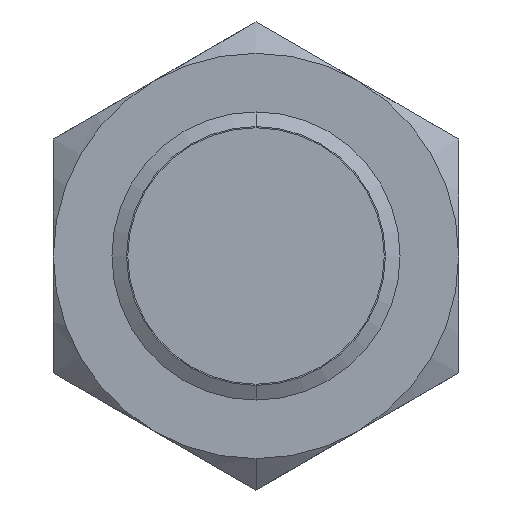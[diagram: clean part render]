
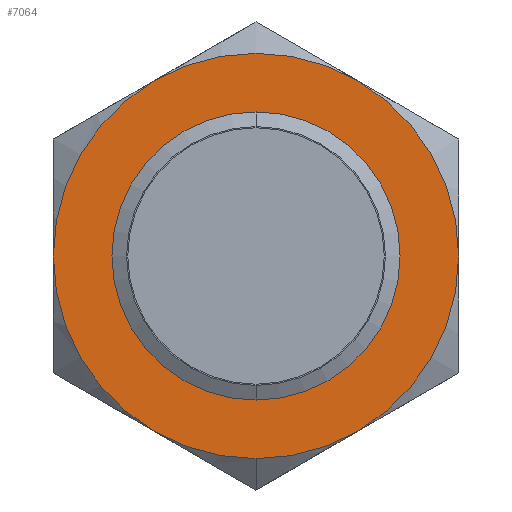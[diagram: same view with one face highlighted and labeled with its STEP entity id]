
A CAD part, left-side view. The second image highlights one B-rep face of the part: STEP entity #7064.
In plain terms, the highlighted planar face has unit normal (-1, 0, 0).
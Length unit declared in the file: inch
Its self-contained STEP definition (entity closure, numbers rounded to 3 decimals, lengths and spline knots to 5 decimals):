
#10 = DIRECTION ( 'NONE',  ( 0., 0., -1. ) ) ;
#1037 = EDGE_CURVE ( 'NONE', #7484, #9191, #9393, .T. ) ;
#1816 = FACE_BOUND ( 'NONE', #6908, .T. ) ;
#1817 = FACE_OUTER_BOUND ( 'NONE', #5549, .T. ) ;
#1818 = PLANE ( 'NONE',  #1819 ) ;
#1819 = AXIS2_PLACEMENT_3D ( 'NONE', #1820, #1821, #1822 ) ;
#1820 = CARTESIAN_POINT ( 'NONE',  ( 0.6075, 0., 0. ) ) ;
#1821 = DIRECTION ( 'NONE',  ( -1., 0., 0. ) ) ;
#1822 = DIRECTION ( 'NONE',  ( 0., 0., 1. ) ) ;
#2636 = CARTESIAN_POINT ( 'NONE',  ( 0.6075, 0., 0.236 ) ) ;
#2835 = CIRCLE ( 'NONE', #2836, 0.236 ) ;
#2836 = AXIS2_PLACEMENT_3D ( 'NONE', #2837, #2838, #2839 ) ;
#2837 = CARTESIAN_POINT ( 'NONE',  ( 0.6075, 0., 0. ) ) ;
#2838 = DIRECTION ( 'NONE',  ( 1., 0., 0. ) ) ;
#2839 = DIRECTION ( 'NONE',  ( 0., 0., 1. ) ) ;
#2945 = CIRCLE ( 'NONE', #2946, 0.332 ) ;
#2946 = AXIS2_PLACEMENT_3D ( 'NONE', #2947, #2948, #2949 ) ;
#2947 = CARTESIAN_POINT ( 'NONE',  ( 0.6075, 0., 0. ) ) ;
#2948 = DIRECTION ( 'NONE',  ( -1., 0., 0. ) ) ;
#2949 = DIRECTION ( 'NONE',  ( 0., 0., -1. ) ) ;
#3591 = CARTESIAN_POINT ( 'NONE',  ( 0.6075, 0., -0.236 ) ) ;
#3616 = CARTESIAN_POINT ( 'NONE',  ( 0.6075, 0.166, -0.28752 ) ) ;
#3657 = EDGE_CURVE ( 'NONE', #4394, #8162, #10512, .T. ) ;
#3841 = ORIENTED_EDGE ( 'NONE', *, *, #3657, .T. ) ;
#3984 = CIRCLE ( 'NONE', #3985, 0.332 ) ;
#3985 = AXIS2_PLACEMENT_3D ( 'NONE', #3986, #3987, #3988 ) ;
#3986 = CARTESIAN_POINT ( 'NONE',  ( 0.6075, 0., 0. ) ) ;
#3987 = DIRECTION ( 'NONE',  ( -1., 0., 0. ) ) ;
#3988 = DIRECTION ( 'NONE',  ( 0., 0., -1. ) ) ;
#4320 = CARTESIAN_POINT ( 'NONE',  ( 0.6075, 0.332, 0. ) ) ;
#4394 = VERTEX_POINT ( 'NONE', #10968 ) ;
#4410 = CIRCLE ( 'NONE', #4413, 0.332 ) ;
#4413 = AXIS2_PLACEMENT_3D ( 'NONE', #4414, #4415, #4416 ) ;
#4414 = CARTESIAN_POINT ( 'NONE',  ( 0.6075, 0., 0. ) ) ;
#4415 = DIRECTION ( 'NONE',  ( -1., 0., 0. ) ) ;
#4416 = DIRECTION ( 'NONE',  ( 0., 0., -1. ) ) ;
#4629 = EDGE_CURVE ( 'NONE', #8330, #4394, #11108, .T. ) ;
#4901 = CARTESIAN_POINT ( 'NONE',  ( 0.6075, 0.166, 0.28752 ) ) ;
#4928 = CIRCLE ( 'NONE', #4929, 0.332 ) ;
#4929 = AXIS2_PLACEMENT_3D ( 'NONE', #4930, #4931, #4932 ) ;
#4930 = CARTESIAN_POINT ( 'NONE',  ( 0.6075, 0., 0. ) ) ;
#4931 = DIRECTION ( 'NONE',  ( -1., 0., 0. ) ) ;
#4932 = DIRECTION ( 'NONE',  ( 0., 0., -1. ) ) ;
#5011 = ORIENTED_EDGE ( 'NONE', *, *, #4629, .T. ) ;
#5388 = CARTESIAN_POINT ( 'NONE',  ( 0.6075, -0.166, 0.28752 ) ) ;
#5549 = EDGE_LOOP ( 'NONE', ( #5011, #3841, #8039, #7841, #7610, #7399, #9099 ) ) ;
#5801 = ORIENTED_EDGE ( 'NONE', *, *, #1037, .T. ) ;
#6367 = ORIENTED_EDGE ( 'NONE', *, *, #9447, .T. ) ;
#6908 = EDGE_LOOP ( 'NONE', ( #6367, #5801 ) ) ;
#7064 = ADVANCED_FACE ( 'NONE', ( #1816, #1817 ), #1818, .T. ) ;
#7399 = ORIENTED_EDGE ( 'NONE', *, *, #9638, .T. ) ;
#7484 = VERTEX_POINT ( 'NONE', #3591 ) ;
#7490 = VERTEX_POINT ( 'NONE', #3616 ) ;
#7536 = EDGE_CURVE ( 'NONE', #7724, #7490, #3984, .T. ) ;
#7610 = ORIENTED_EDGE ( 'NONE', *, *, #7536, .T. ) ;
#7724 = VERTEX_POINT ( 'NONE', #4320 ) ;
#7760 = EDGE_CURVE ( 'NONE', #7943, #7724, #4410, .T. ) ;
#7841 = ORIENTED_EDGE ( 'NONE', *, *, #7760, .T. ) ;
#7943 = VERTEX_POINT ( 'NONE', #4901 ) ;
#7989 = EDGE_CURVE ( 'NONE', #8162, #7943, #4928, .T. ) ;
#8039 = ORIENTED_EDGE ( 'NONE', *, *, #7989, .T. ) ;
#8162 = VERTEX_POINT ( 'NONE', #5388 ) ;
#8330 = VERTEX_POINT ( 'NONE', #10665 ) ;
#8381 = VERTEX_POINT ( 'NONE', #10905 ) ;
#8414 = EDGE_CURVE ( 'NONE', #8381, #8330, #11062, .T. ) ;
#9099 = ORIENTED_EDGE ( 'NONE', *, *, #8414, .T. ) ;
#9191 = VERTEX_POINT ( 'NONE', #2636 ) ;
#9393 = CIRCLE ( 'NONE', #9394, 0.236 ) ;
#9394 = AXIS2_PLACEMENT_3D ( 'NONE', #9395, #9398, #9399 ) ;
#9395 = CARTESIAN_POINT ( 'NONE',  ( 0.6075, 0., 0. ) ) ;
#9398 = DIRECTION ( 'NONE',  ( 1., 0., 0. ) ) ;
#9399 = DIRECTION ( 'NONE',  ( 0., 0., 1. ) ) ;
#9447 = EDGE_CURVE ( 'NONE', #9191, #7484, #2835, .T. ) ;
#9638 = EDGE_CURVE ( 'NONE', #7490, #8381, #2945, .T. ) ;
#10512 = CIRCLE ( 'NONE', #10513, 0.332 ) ;
#10513 = AXIS2_PLACEMENT_3D ( 'NONE', #10514, #10515, #10516 ) ;
#10514 = CARTESIAN_POINT ( 'NONE',  ( 0.6075, 0., 0. ) ) ;
#10515 = DIRECTION ( 'NONE',  ( -1., 0., 0. ) ) ;
#10516 = DIRECTION ( 'NONE',  ( 0., 0., -1. ) ) ;
#10665 = CARTESIAN_POINT ( 'NONE',  ( 0.6075, -0.166, -0.28752 ) ) ;
#10905 = CARTESIAN_POINT ( 'NONE',  ( 0.6075, 0., -0.332 ) ) ;
#10968 = CARTESIAN_POINT ( 'NONE',  ( 0.6075, -0.332, 0. ) ) ;
#11062 = CIRCLE ( 'NONE', #11063, 0.332 ) ;
#11063 = AXIS2_PLACEMENT_3D ( 'NONE', #11064, #11065, #11066 ) ;
#11064 = CARTESIAN_POINT ( 'NONE',  ( 0.6075, 0., 0. ) ) ;
#11065 = DIRECTION ( 'NONE',  ( -1., 0., 0. ) ) ;
#11066 = DIRECTION ( 'NONE',  ( 0., 0., -1. ) ) ;
#11108 = CIRCLE ( 'NONE', #11109, 0.332 ) ;
#11109 = AXIS2_PLACEMENT_3D ( 'NONE', #11110, #11111, #10 ) ;
#11110 = CARTESIAN_POINT ( 'NONE',  ( 0.6075, 0., 0. ) ) ;
#11111 = DIRECTION ( 'NONE',  ( -1., 0., 0. ) ) ;
